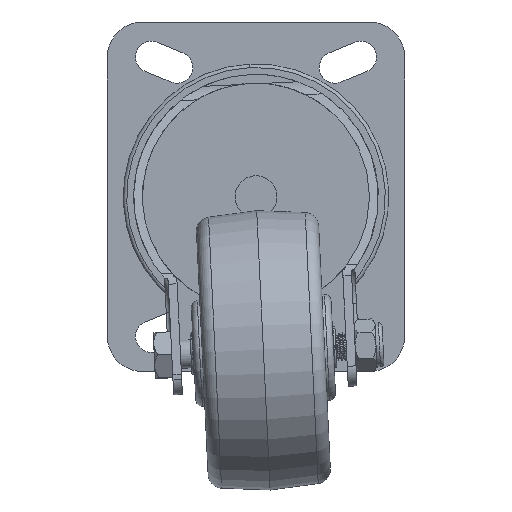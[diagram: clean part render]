
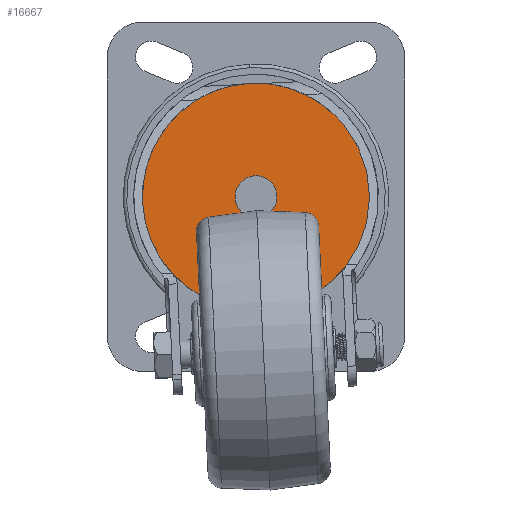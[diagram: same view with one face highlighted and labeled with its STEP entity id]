
A CAD part, front view. The second image highlights one B-rep face of the part: STEP entity #16667.
In plain terms, the highlighted planar face has unit normal (0, -1, 0) as drawn and (0, 1, 0) by its records, which use the part's own axes.
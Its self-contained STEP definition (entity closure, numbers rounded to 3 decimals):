
#1122 = AXIS2_PLACEMENT_3D ( 'NONE', #24845, #15906, #10731 ) ;
#4811 = AXIS2_PLACEMENT_3D ( 'NONE', #24450, #24605, #6219 ) ;
#5765 = FACE_OUTER_BOUND ( 'NONE', #22957, .T. ) ;
#6060 = ORIENTED_EDGE ( 'NONE', *, *, #26038, .F. ) ;
#6219 = DIRECTION ( 'NONE',  ( 0., 0., 1. ) ) ;
#6731 = VERTEX_POINT ( 'NONE', #20233 ) ;
#8044 = EDGE_CURVE ( 'NONE', #6731, #10471, #20149, .T. ) ;
#8343 = PLANE ( 'NONE',  #4811 ) ;
#8907 = EDGE_CURVE ( 'NONE', #16218, #22470, #22151, .T. ) ;
#9983 = CARTESIAN_POINT ( 'NONE',  ( 0., 2.5, 32.5 ) ) ;
#10321 = CIRCLE ( 'NONE', #1122, 32.5 ) ;
#10471 = VERTEX_POINT ( 'NONE', #24839 ) ;
#10731 = DIRECTION ( 'NONE',  ( 0., 0., 1. ) ) ;
#10951 = CARTESIAN_POINT ( 'NONE',  ( 0., 2.5, -32.5 ) ) ;
#12072 = ORIENTED_EDGE ( 'NONE', *, *, #8907, .T. ) ;
#14390 = AXIS2_PLACEMENT_3D ( 'NONE', #17678, #15399, #24646 ) ;
#15217 = AXIS2_PLACEMENT_3D ( 'NONE', #22755, #17769, #29687 ) ;
#15399 = DIRECTION ( 'NONE',  ( 0., 1., 0. ) ) ;
#15701 = CIRCLE ( 'NONE', #15217, 6. ) ;
#15906 = DIRECTION ( 'NONE',  ( 0., 1., 0. ) ) ;
#16218 = VERTEX_POINT ( 'NONE', #10951 ) ;
#16667 = ADVANCED_FACE ( 'NONE', ( #28963, #5765 ), #8343, .T. ) ;
#17167 = CARTESIAN_POINT ( 'NONE',  ( 0., 2.5, 0. ) ) ;
#17678 = CARTESIAN_POINT ( 'NONE',  ( 0., 2.5, 0. ) ) ;
#17769 = DIRECTION ( 'NONE',  ( 0., 1., 0. ) ) ;
#20149 = CIRCLE ( 'NONE', #23535, 6. ) ;
#20233 = CARTESIAN_POINT ( 'NONE',  ( 0., 2.5, -6. ) ) ;
#20992 = ORIENTED_EDGE ( 'NONE', *, *, #25273, .T. ) ;
#21719 = DIRECTION ( 'NONE',  ( 0., 0., 1. ) ) ;
#22151 = CIRCLE ( 'NONE', #14390, 32.5 ) ;
#22470 = VERTEX_POINT ( 'NONE', #9983 ) ;
#22755 = CARTESIAN_POINT ( 'NONE',  ( 0., 2.5, 0. ) ) ;
#22957 = EDGE_LOOP ( 'NONE', ( #12072, #20992 ) ) ;
#23535 = AXIS2_PLACEMENT_3D ( 'NONE', #17167, #26405, #21719 ) ;
#24450 = CARTESIAN_POINT ( 'NONE',  ( 0., 2.5, 0. ) ) ;
#24605 = DIRECTION ( 'NONE',  ( 0., 1., 0. ) ) ;
#24646 = DIRECTION ( 'NONE',  ( 0., 0., 1. ) ) ;
#24839 = CARTESIAN_POINT ( 'NONE',  ( 0., 2.5, 6. ) ) ;
#24845 = CARTESIAN_POINT ( 'NONE',  ( 0., 2.5, 0. ) ) ;
#25113 = ORIENTED_EDGE ( 'NONE', *, *, #8044, .F. ) ;
#25273 = EDGE_CURVE ( 'NONE', #22470, #16218, #10321, .T. ) ;
#26038 = EDGE_CURVE ( 'NONE', #10471, #6731, #15701, .T. ) ;
#26405 = DIRECTION ( 'NONE',  ( 0., 1., 0. ) ) ;
#26927 = EDGE_LOOP ( 'NONE', ( #25113, #6060 ) ) ;
#28963 = FACE_BOUND ( 'NONE', #26927, .T. ) ;
#29687 = DIRECTION ( 'NONE',  ( 0., 0., 1. ) ) ;
